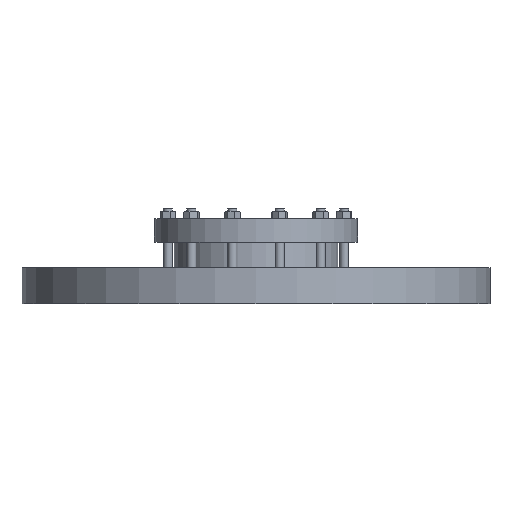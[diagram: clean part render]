
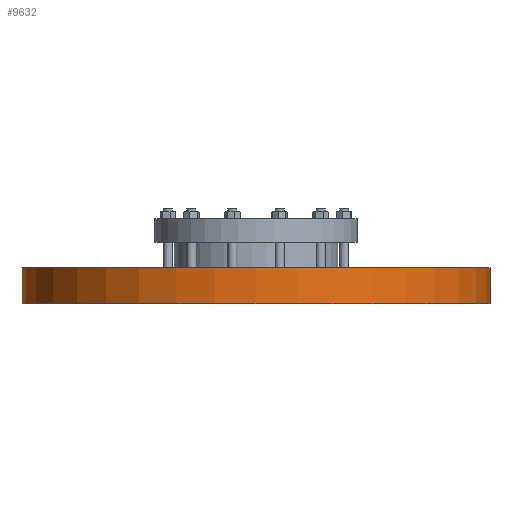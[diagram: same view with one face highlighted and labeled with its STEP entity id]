
A CAD part, front view. The second image highlights one B-rep face of the part: STEP entity #9632.
In plain terms, the highlighted cylindrical face has radius 512.5 mm (diameter 1025 mm), a full revolution.
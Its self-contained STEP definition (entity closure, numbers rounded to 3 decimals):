
#1852=CYLINDRICAL_SURFACE('',#10319,512.5);
#1987=FACE_BOUND('',#3819,.T.);
#3144=FACE_OUTER_BOUND('',#3818,.T.);
#3818=EDGE_LOOP('',(#8781));
#3819=EDGE_LOOP('',(#8782));
#3902=CIRCLE('',#9653,512.5);
#4141=CIRCLE('',#10320,512.5);
#4168=VERTEX_POINT('',#12303);
#4989=VERTEX_POINT('',#16896);
#5016=EDGE_CURVE('',#4168,#4168,#3902,.T.);
#6272=EDGE_CURVE('',#4989,#4989,#4141,.T.);
#8781=ORIENTED_EDGE('',*,*,#6272,.F.);
#8782=ORIENTED_EDGE('',*,*,#5016,.F.);
#9632=ADVANCED_FACE('',(#3144,#1987),#1852,.T.);
#9653=AXIS2_PLACEMENT_3D('',#12304,#10369,#10370);
#10319=AXIS2_PLACEMENT_3D('',#16895,#12214,#12215);
#10320=AXIS2_PLACEMENT_3D('',#16897,#12216,#12217);
#10369=DIRECTION('center_axis',(0.,0.,-1.));
#10370=DIRECTION('ref_axis',(-1.,0.,0.));
#12214=DIRECTION('center_axis',(0.,0.,1.));
#12215=DIRECTION('ref_axis',(-1.,0.,0.));
#12216=DIRECTION('center_axis',(0.,0.,1.));
#12217=DIRECTION('ref_axis',(-1.,0.,0.));
#12303=CARTESIAN_POINT('',(512.5,0.,0.));
#12304=CARTESIAN_POINT('Origin',(0.,0.,0.));
#16895=CARTESIAN_POINT('Origin',(0.,0.,0.));
#16896=CARTESIAN_POINT('',(512.5,0.,79.));
#16897=CARTESIAN_POINT('Origin',(0.,0.,79.));
